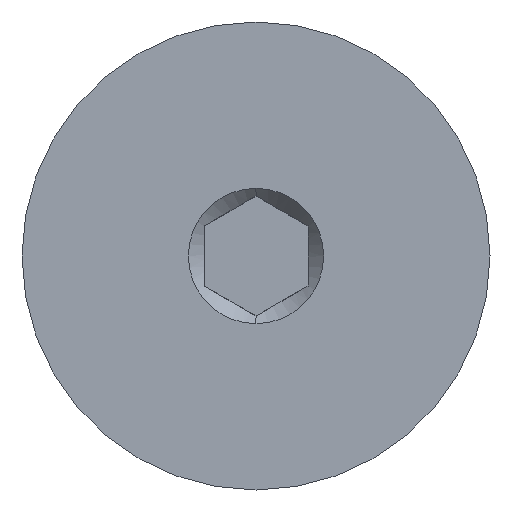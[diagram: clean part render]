
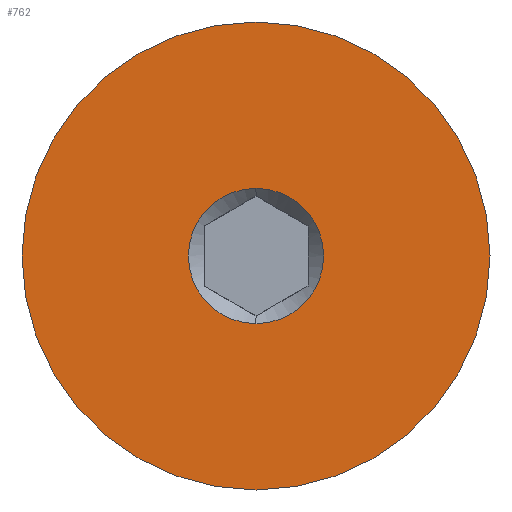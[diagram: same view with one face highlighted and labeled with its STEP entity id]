
A CAD part, front view. The second image highlights one B-rep face of the part: STEP entity #762.
In plain terms, the highlighted planar face has unit normal (0, -1, 0).
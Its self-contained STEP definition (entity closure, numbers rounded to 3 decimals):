
#24 = ORIENTED_EDGE ( 'NONE', *, *, #433, .T. ) ;
#28 = VERTEX_POINT ( 'NONE', #444 ) ;
#74 = ORIENTED_EDGE ( 'NONE', *, *, #1285, .T. ) ;
#107 = ORIENTED_EDGE ( 'NONE', *, *, #1129, .F. ) ;
#115 = VERTEX_POINT ( 'NONE', #1014 ) ;
#151 = DIRECTION ( 'NONE',  ( 0., 1., 0. ) ) ;
#161 = CIRCLE ( 'NONE', #802, 2.6 ) ;
#165 = VERTEX_POINT ( 'NONE', #1374 ) ;
#179 = DIRECTION ( 'NONE',  ( -1., 0., 0. ) ) ;
#289 = CARTESIAN_POINT ( 'NONE',  ( 0., -20., 0. ) ) ;
#294 = DIRECTION ( 'NONE',  ( 0., 1., 0. ) ) ;
#352 = AXIS2_PLACEMENT_3D ( 'NONE', #359, #1143, #478 ) ;
#359 = CARTESIAN_POINT ( 'NONE',  ( 0., -20., 0. ) ) ;
#412 = DIRECTION ( 'NONE',  ( 0., 0., 1. ) ) ;
#433 = EDGE_CURVE ( 'NONE', #165, #537, #722, .T. ) ;
#435 = ORIENTED_EDGE ( 'NONE', *, *, #737, .F. ) ;
#444 = CARTESIAN_POINT ( 'NONE',  ( 9., -20., 0. ) ) ;
#445 = AXIS2_PLACEMENT_3D ( 'NONE', #289, #1075, #412 ) ;
#478 = DIRECTION ( 'NONE',  ( -1., 0., 0. ) ) ;
#490 = AXIS2_PLACEMENT_3D ( 'NONE', #980, #294, #1079 ) ;
#537 = VERTEX_POINT ( 'NONE', #659 ) ;
#659 = CARTESIAN_POINT ( 'NONE',  ( 0., -20., -2.6 ) ) ;
#722 = CIRCLE ( 'NONE', #445, 2.6 ) ;
#737 = EDGE_CURVE ( 'NONE', #28, #115, #1232, .T. ) ;
#762 = ADVANCED_FACE ( 'NONE', ( #1195, #1457 ), #1194, .F. ) ;
#802 = AXIS2_PLACEMENT_3D ( 'NONE', #828, #151, #953 ) ;
#828 = CARTESIAN_POINT ( 'NONE',  ( 0., -20., 0. ) ) ;
#832 = CIRCLE ( 'NONE', #352, 9. ) ;
#860 = DIRECTION ( 'NONE',  ( 0., 1., 0. ) ) ;
#870 = EDGE_LOOP ( 'NONE', ( #107, #435 ) ) ;
#953 = DIRECTION ( 'NONE',  ( 0., 0., 1. ) ) ;
#980 = CARTESIAN_POINT ( 'NONE',  ( 0., -20., 0. ) ) ;
#1011 = AXIS2_PLACEMENT_3D ( 'NONE', #1201, #860, #179 ) ;
#1014 = CARTESIAN_POINT ( 'NONE',  ( -9., -20., 0. ) ) ;
#1075 = DIRECTION ( 'NONE',  ( 0., 1., 0. ) ) ;
#1079 = DIRECTION ( 'NONE',  ( -1., 0., 0. ) ) ;
#1129 = EDGE_CURVE ( 'NONE', #115, #28, #832, .T. ) ;
#1143 = DIRECTION ( 'NONE',  ( 0., 1., 0. ) ) ;
#1194 = PLANE ( 'NONE',  #1011 ) ;
#1195 = FACE_BOUND ( 'NONE', #1225, .T. ) ;
#1201 = CARTESIAN_POINT ( 'NONE',  ( 9., -20., 0. ) ) ;
#1225 = EDGE_LOOP ( 'NONE', ( #74, #24 ) ) ;
#1232 = CIRCLE ( 'NONE', #490, 9. ) ;
#1285 = EDGE_CURVE ( 'NONE', #537, #165, #161, .T. ) ;
#1374 = CARTESIAN_POINT ( 'NONE',  ( 0., -20., 2.6 ) ) ;
#1457 = FACE_OUTER_BOUND ( 'NONE', #870, .T. ) ;
